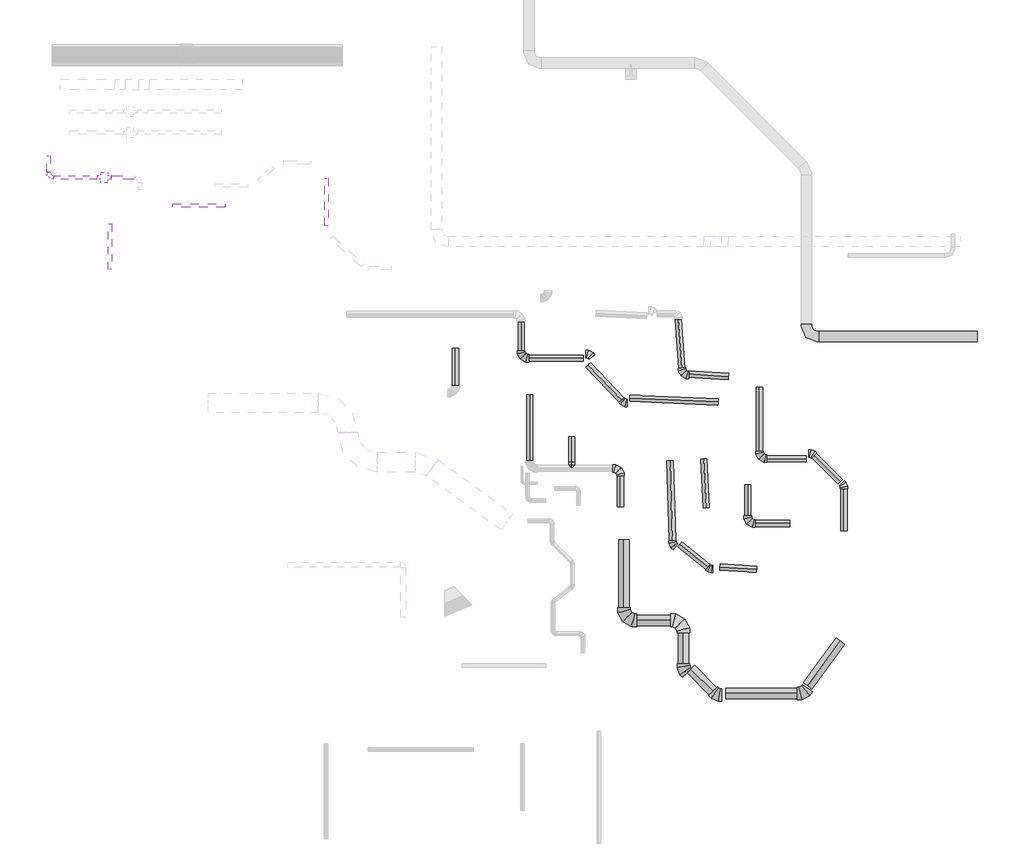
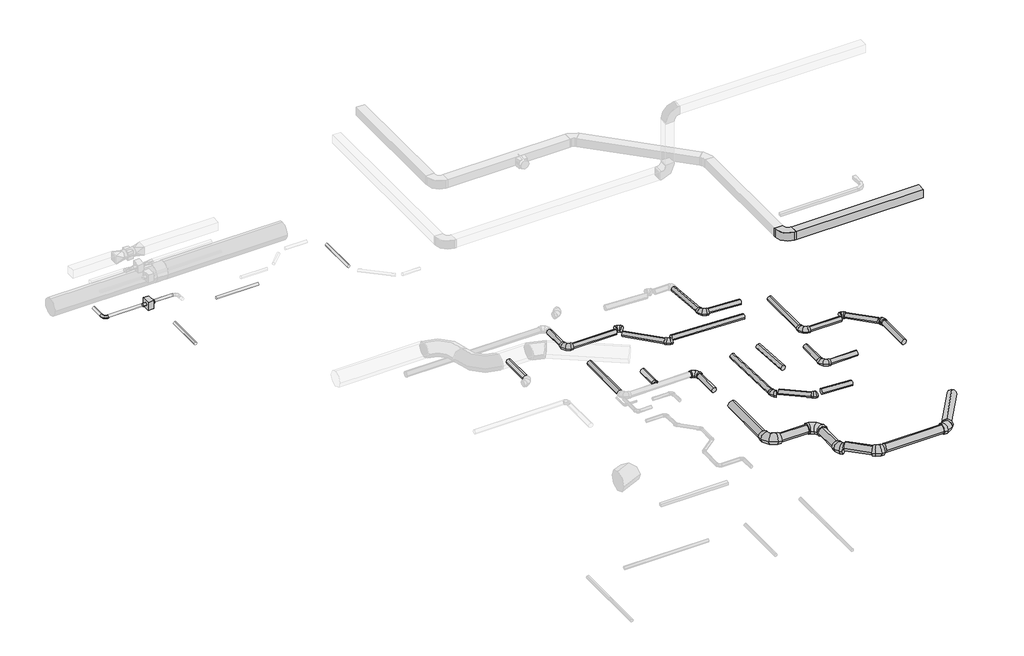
# One storey, part 2 of 3: 33 duct segments, 19 duct fittings, 1 damper.
"""IFC4 building model written with IfcOpenShell, lengths in millimetres."""

from ifc_helpers import new_model, si_unit, point, frame, frame_2d, origin, place, context, project, spatial, polyline, circle_curve, trimmed, segment, composite_curve, outline, extrude, transform, mapped, element, save
from components import damper_48ec160e, duct_fitting_99cd3f61, duct_fitting_6987a024, duct_fitting_42c6a5c8, duct_fitting_3e7b8915, duct_fitting_836300f1, duct_fitting_bc9b2c0d, duct_fitting_0e20c7a0, duct_fitting_1d6929bf, duct_fitting_1a50dd9c, duct_fitting_00318b5b, duct_fitting_fdccc320, duct_fitting_0524fbbe, duct_fitting_1_5_d_8d1b72b4

model = new_model("IFC4")

# Units and contexts
model_context = context("Model", 3, world=origin())
ifc_project = project(units=[si_unit("LENGTHUNIT", "METRE", prefix="MILLI")], contexts=[model_context])

# Site, building, storey
site = spatial("IfcSite", under=ifc_project)
building = spatial("IfcBuilding", under=site)
storey = spatial("IfcBuildingStorey", under=building, Name="Уровень 1", Elevation=0.0)

# Damper
placement = place(None, origin())
damper_shape = damper_48ec160e(model_context)
element("IfcDamper", 1, ObjectType="06_Клапан_Размер соединителя-2 : 02_Клапан_Геометрия", at=placement, inside=storey, context=model_context, shape_type="MappedRepresentation", body=[
    mapped(damper_shape, transform((-14592.4563214, 4293.0138469, 2750.0), x_axis=(1.0, 0.0, 0.0), y_axis=(0.0, 1.0, 0.0), z_axis=(0.0, 0.0, 1.0))),
])

# Duct fittings
duct_fitting_shape = duct_fitting_99cd3f61(model_context)
element("IfcDuctFitting", 2, ObjectType="Отвод прямоугольного сечения : Стандартное", at=placement, inside=storey, context=model_context, shape_type="MappedRepresentation", body=[
    mapped(duct_fitting_shape, transform((5512.1003634, -270.0074084, 1000.0), x_axis=(0.0, -1.0, 0.0), y_axis=(1.0, 0.0, 0.0), z_axis=(0.0, 0.0, 1.0))),
])
duct_fitting_2_shape = duct_fitting_6987a024(model_context)
element("IfcDuctFitting", 3, ObjectType="17_Отвод_Заключение : 10_Отвод_3D объект", at=placement, inside=storey, context=model_context, shape_type="MappedRepresentation", body=[
    mapped(duct_fitting_2_shape, transform((-2651.1464957, -887.0271802, 0.0), x_axis=(0.0, -1.0, 0.0), y_axis=(1.0, 0.0, 0.0), z_axis=(0.0, 0.0, 1.0))),
])
element("IfcDuctFitting", 4, ObjectType="17_Отвод_Заключение : 10_Отвод_3D объект", at=placement, inside=storey, context=model_context, shape_type="MappedRepresentation", body=[
    mapped(duct_fitting_2_shape, transform((190.0160613, -4038.667233, 0.0), x_axis=(0.0, 1.0, 0.0), y_axis=(-1.0, 0.0, 0.0), z_axis=(0.0, 0.0, 1.0))),
])
element("IfcDuctFitting", 5, ObjectType="17_Отвод_Заключение : 10_Отвод_3D объект", at=placement, inside=storey, context=model_context, shape_type="MappedRepresentation", body=[
    mapped(duct_fitting_2_shape, transform((4169.2425379, -3763.5250232, 0.0), x_axis=(0.0, -1.0, 0.0), y_axis=(1.0, 0.0, 0.0), z_axis=(0.0, 0.0, 1.0))),
])
element("IfcDuctFitting", 6, ObjectType="17_Отвод_Заключение : 10_Отвод_3D объект", at=placement, inside=storey, context=model_context, shape_type="MappedRepresentation", body=[
    mapped(duct_fitting_2_shape, transform((3834.6326698, -5615.0022503, 0.0), x_axis=(0.0, -1.0, 0.0), y_axis=(1.0, 0.0, 0.0), z_axis=(0.0, 0.0, 1.0))),
])
duct_fitting_3_shape = duct_fitting_42c6a5c8(model_context)
element("IfcDuctFitting", 7, ObjectType="Врезка круглого сечения : Стандартное", at=placement, inside=storey, context=model_context, shape_type="MappedRepresentation", body=[
    mapped(duct_fitting_3_shape, transform((-1202.5208385, -3948.667233, 0.0), x_axis=(0.0, 1.0, 0.0), y_axis=(1.0, 0.0, 0.0), z_axis=(0.0, 0.0, -1.0))),
])
duct_fitting_4_shape = duct_fitting_3e7b8915(model_context)
element("IfcDuctFitting", 8, ObjectType="17_Отвод_Заключение : 10_Отвод_3D объект", at=placement, inside=storey, context=model_context, shape_type="MappedRepresentation", body=[
    mapped(duct_fitting_4_shape, transform((-697.0877391, -763.1346699, 0.0), x_axis=(-0.5735764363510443, 0.8191520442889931, 0.0), y_axis=(-0.8191520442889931, -0.5735764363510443, 0.0), z_axis=(0.0, 0.0, 1.0))),
])
duct_fitting_5_shape = duct_fitting_836300f1(model_context)
element("IfcDuctFitting", 9, ObjectType="17_Отвод_Заключение : 10_Отвод_3D объект", at=placement, inside=storey, context=model_context, shape_type="MappedRepresentation", body=[
    mapped(duct_fitting_5_shape, transform((285.0795338, -2165.8149029, 0.0), x_axis=(0.6283391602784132, -0.7779395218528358, 0.0), y_axis=(0.7779395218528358, 0.6283391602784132, 0.0), z_axis=(0.0, 0.0, 1.0))),
])
duct_fitting_6_shape = duct_fitting_bc9b2c0d(model_context)
element("IfcDuctFitting", 10, ObjectType="17_Отвод_Заключение : 10_Отвод_3D объект", at=placement, inside=storey, context=model_context, shape_type="MappedRepresentation", body=[
    mapped(duct_fitting_6_shape, transform((1959.492006, -1355.8707242, 0.0), x_axis=(0.07055760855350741, -0.9975077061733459, 0.0), y_axis=(0.9975077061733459, 0.07055760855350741, 0.0), z_axis=(0.0, 0.0, 1.0))),
])
duct_fitting_7_shape = duct_fitting_0e20c7a0(model_context)
element("IfcDuctFitting", 11, ObjectType="17_Отвод_Заключение : 10_Отвод_3D объект", at=placement, inside=storey, context=model_context, shape_type="MappedRepresentation", body=[
    mapped(duct_fitting_7_shape, transform((5669.2425379, -3610.7899584, 0.0), x_axis=(-0.7071067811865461, 0.707106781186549, 0.0), y_axis=(-0.707106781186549, -0.7071067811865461, 0.0), z_axis=(0.0, 0.0, 1.0))),
])
element("IfcDuctFitting", 12, ObjectType="17_Отвод_Заключение : 10_Отвод_3D объект", at=placement, inside=storey, context=model_context, shape_type="MappedRepresentation", body=[
    mapped(duct_fitting_7_shape, transform((6588.4813535, -4530.028774, 0.0), x_axis=(0.0, 1.0, 0.0), y_axis=(-1.0, 0.0, 0.0), z_axis=(0.0, 0.0, 1.0))),
])
duct_fitting_8_shape = duct_fitting_1d6929bf(model_context)
element("IfcDuctFitting", 13, ObjectType="17_Отвод_Заключение : 10_Отвод_3D объект", at=placement, inside=storey, context=model_context, shape_type="MappedRepresentation", body=[
    mapped(duct_fitting_8_shape, transform((1677.4620519, -6216.3976912, 0.0), x_axis=(0.0, -1.0, 0.0), y_axis=(1.0, 0.0, 0.0), z_axis=(0.0, 0.0, 1.0))),
])
duct_fitting_9_shape = duct_fitting_1a50dd9c(model_context)
element("IfcDuctFitting", 14, ObjectType="17_Отвод_Заключение : 10_Отвод_3D объект", at=placement, inside=storey, context=model_context, shape_type="MappedRepresentation", body=[
    mapped(duct_fitting_9_shape, transform((2758.4885044, -6916.8464858, 0.0), x_axis=(0.7771616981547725, -0.6293009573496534, 0.0), y_axis=(0.6293009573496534, 0.7771616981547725, 0.0), z_axis=(0.0, 0.0, 1.0))),
])
duct_fitting_10_shape = duct_fitting_00318b5b(model_context)
element("IfcDuctFitting", 15, ObjectType="17_Отвод_Заключение : 10_Отвод_3D объект", at=placement, inside=storey, context=model_context, shape_type="MappedRepresentation", body=[
    mapped(duct_fitting_10_shape, transform((291.1595452, -8389.3975526, 0.0), x_axis=(0.0, -1.0, 0.0), y_axis=(1.0, 0.0, 0.0), z_axis=(0.0, 0.0, 1.0))),
])
element("IfcDuctFitting", 16, ObjectType="17_Отвод_Заключение : 10_Отвод_3D объект", at=placement, inside=storey, context=model_context, shape_type="MappedRepresentation", body=[
    mapped(duct_fitting_10_shape, transform((1991.1595452, -8389.3975526, 0.0), x_axis=(0.0, 1.0, 0.0), y_axis=(-1.0, 0.0, 0.0), z_axis=(0.0, 0.0, 1.0))),
])
duct_fitting_11_shape = duct_fitting_fdccc320(model_context)
element("IfcDuctFitting", 17, ObjectType="17_Отвод_Заключение : 10_Отвод_3D объект", at=placement, inside=storey, context=model_context, shape_type="MappedRepresentation", body=[
    mapped(duct_fitting_11_shape, transform((1991.1595452, -9789.3975526, 0.0), x_axis=(0.0, -1.0, 0.0), y_axis=(1.0, 0.0, 0.0), z_axis=(0.0, 0.0, 1.0))),
])
element("IfcDuctFitting", 18, ObjectType="17_Отвод_Заключение : 10_Отвод_3D объект", at=placement, inside=storey, context=model_context, shape_type="MappedRepresentation", body=[
    mapped(duct_fitting_11_shape, transform((2947.6876826, -10529.92569, 0.0), x_axis=(0.7071067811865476, -0.7071067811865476, 0.0), y_axis=(0.7071067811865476, 0.7071067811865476, 0.0), z_axis=(0.0, 0.0, 1.0))),
])
duct_fitting_12_shape = duct_fitting_0524fbbe(model_context)
element("IfcDuctFitting", 19, ObjectType="17_Отвод_Заключение : 10_Отвод_3D объект", at=placement, inside=storey, context=model_context, shape_type="MappedRepresentation", body=[
    mapped(duct_fitting_12_shape, transform((5439.6876826, -10485.1906253, 0.0), x_axis=(1.0, 0.0, 0.0), y_axis=(0.0, 1.0, 0.0), z_axis=(0.0, 0.0, 1.0))),
])
duct_fitting_1_5_d_shape = duct_fitting_1_5_d_8d1b72b4(model_context)
element("IfcDuctFitting", 20, ObjectType="M_Отвод круглого сечения : 1.5 D", at=placement, inside=storey, context=model_context, shape_type="MappedRepresentation", body=[
    mapped(duct_fitting_1_5_d_shape, transform((-16192.4563214, 4293.0138469, 2750.0), x_axis=(0.0, -1.0, 0.0), y_axis=(1.0, 0.0, 0.0), z_axis=(0.0, 0.0, 1.0))),
])

# Duct segments
element("IfcDuctSegment", 21, ObjectType="Закругленные отводы / тройники", at=placement, inside=storey, context=model_context, shape_type="SweptSolid", body=[
    extrude(outline(polyline([(5862.1003634, -420.0074084), (5862.1003634, -120.0074084), (10412.1003634, -120.0074084), (10412.1003634, -420.0074084), (5862.1003634, -420.0074084)])), frame((0.0, 0.0, 850.0), z_axis=(0.0, 0.0, 1.0), x_axis=(1.0, 0.0, 0.0)), (0.0, 0.0, 1.0), 300.0),
])
element("IfcDuctSegment", 22, ObjectType="Врезки", at=placement, inside=storey, context=model_context, shape_type="SweptSolid", body=[
    extrude(outline(composite_curve([segment(trimmed(circle_curve(frame_2d((4293.0138469, 2750.0)), 50.0), [point((4343.0138469, 2750.0))], [point((4293.0138469, 2700.0))], False, "CARTESIAN"), True, "CONTINUOUS"), segment(trimmed(circle_curve(frame_2d((4293.0138469, 2750.0)), 50.0), [point((4293.0138469, 2700.0))], [point((4243.0138469, 2750.0))], False, "CARTESIAN"), True, "CONTINUOUS"), segment(trimmed(circle_curve(frame_2d((4293.0138469, 2750.0)), 50.0), [point((4243.0138469, 2750.0))], [point((4293.0138469, 2800.0))], False, "CARTESIAN"), True, "CONTINUOUS"), segment(trimmed(circle_curve(frame_2d((4293.0138469, 2750.0)), 50.0), [point((4293.0138469, 2800.0))], [point((4343.0138469, 2750.0))], False, "CARTESIAN"), True, "CONTINUOUS")], self_intersect=False)), frame((-16042.4563214, 0.0, 0.0), z_axis=(1.0, 0.0, 0.0), x_axis=(0.0, 1.0, 0.0)), (0.0, 0.0, 1.0), 1250.0),
])
element("IfcDuctSegment", 23, ObjectType="Врезки", at=placement, inside=storey, context=model_context, shape_type="SweptSolid", body=[
    extrude(outline(composite_curve([segment(trimmed(circle_curve(frame_2d((2750.0, -16192.4563214)), 50.0), [point((2750.0, -16142.4563214))], [point((2800.0, -16192.4563214))], False, "CARTESIAN"), True, "CONTINUOUS"), segment(trimmed(circle_curve(frame_2d((2750.0, -16192.4563214)), 50.0), [point((2800.0, -16192.4563214))], [point((2750.0, -16242.4563214))], False, "CARTESIAN"), True, "CONTINUOUS"), segment(trimmed(circle_curve(frame_2d((2750.0, -16192.4563214)), 50.0), [point((2750.0, -16242.4563214))], [point((2700.0, -16192.4563214))], False, "CARTESIAN"), True, "CONTINUOUS"), segment(trimmed(circle_curve(frame_2d((2750.0, -16192.4563214)), 50.0), [point((2700.0, -16192.4563214))], [point((2750.0, -16142.4563214))], False, "CARTESIAN"), True, "CONTINUOUS")], self_intersect=False)), frame((0.0, 4443.0138469, 0.0), z_axis=(0.0, 1.0, 0.0), x_axis=(0.0, 0.0, 1.0)), (0.0, 0.0, 1.0), 470.0),
])
element("IfcDuctSegment", 24, ObjectType="Врезки", at=placement, inside=storey, context=model_context, shape_type="SweptSolid", body=[
    extrude(outline(composite_curve([segment(trimmed(circle_curve(frame_2d((4293.0138469, 2750.0)), 50.0), [point((4243.0138469, 2750.0))], [point((4293.0138469, 2800.0))], False, "CARTESIAN"), True, "CONTINUOUS"), segment(trimmed(circle_curve(frame_2d((4293.0138469, 2750.0)), 50.0), [point((4293.0138469, 2800.0))], [point((4343.0138469, 2750.0))], False, "CARTESIAN"), True, "CONTINUOUS"), segment(trimmed(circle_curve(frame_2d((4293.0138469, 2750.0)), 50.0), [point((4343.0138469, 2750.0))], [point((4293.0138469, 2700.0))], False, "CARTESIAN"), True, "CONTINUOUS"), segment(trimmed(circle_curve(frame_2d((4293.0138469, 2750.0)), 50.0), [point((4293.0138469, 2700.0))], [point((4243.0138469, 2750.0))], False, "CARTESIAN"), True, "CONTINUOUS")], self_intersect=False)), frame((-14392.4563214, 0.0, 0.0), z_axis=(1.0, 0.0, 0.0), x_axis=(0.0, 1.0, 0.0)), (0.0, 0.0, 1.0), 670.0),
])
element("IfcDuctSegment", 25, ObjectType="Врезки", at=placement, inside=storey, context=model_context, shape_type="SweptSolid", body=[
    extrude(outline(composite_curve([segment(trimmed(circle_curve(frame_2d((3482.6867258, 2750.0)), 50.0), [point((3432.6867258, 2750.0))], [point((3482.6867258, 2800.0))], False, "CARTESIAN"), True, "CONTINUOUS"), segment(trimmed(circle_curve(frame_2d((3482.6867258, 2750.0)), 50.0), [point((3482.6867258, 2800.0))], [point((3532.6867258, 2750.0))], False, "CARTESIAN"), True, "CONTINUOUS"), segment(trimmed(circle_curve(frame_2d((3482.6867258, 2750.0)), 50.0), [point((3532.6867258, 2750.0))], [point((3482.6867258, 2700.0))], False, "CARTESIAN"), True, "CONTINUOUS"), segment(trimmed(circle_curve(frame_2d((3482.6867258, 2750.0)), 50.0), [point((3482.6867258, 2700.0))], [point((3432.6867258, 2750.0))], False, "CARTESIAN"), True, "CONTINUOUS")], self_intersect=False)), frame((-12630.7811556, 0.0, 0.0), z_axis=(1.0, 0.0, 0.0), x_axis=(0.0, 1.0, 0.0)), (0.0, 0.0, 1.0), 1500.0),
])
element("IfcDuctSegment", 26, ObjectType="Врезки", at=placement, inside=storey, context=model_context, shape_type="SweptSolid", body=[
    extrude(outline(composite_curve([segment(trimmed(circle_curve(frame_2d((2750.0, -8231.9089378)), 50.0), [point((2750.0, -8281.9089378))], [point((2700.0, -8231.9089378))], False, "CARTESIAN"), True, "CONTINUOUS"), segment(trimmed(circle_curve(frame_2d((2750.0, -8231.9089378)), 50.0), [point((2700.0, -8231.9089378))], [point((2750.0, -8181.9089378))], False, "CARTESIAN"), True, "CONTINUOUS"), segment(trimmed(circle_curve(frame_2d((2750.0, -8231.9089378)), 50.0), [point((2750.0, -8181.9089378))], [point((2800.0, -8231.9089378))], False, "CARTESIAN"), True, "CONTINUOUS"), segment(trimmed(circle_curve(frame_2d((2750.0, -8231.9089378)), 50.0), [point((2800.0, -8231.9089378))], [point((2750.0, -8281.9089378))], False, "CARTESIAN"), True, "CONTINUOUS")], self_intersect=False)), frame((0.0, 2902.2929344, 0.0), z_axis=(0.0, 1.0, 0.0), x_axis=(0.0, 0.0, 1.0)), (0.0, 0.0, 1.0), 1369.6470916),
])
element("IfcDuctSegment", 27, ObjectType="Врезки", at=placement, inside=storey, context=model_context, shape_type="SweptSolid", body=[
    extrude(outline(composite_curve([segment(trimmed(circle_curve(frame_2d((2750.0, -14419.7923329)), 50.0), [point((2750.0, -14469.7923329))], [point((2700.0, -14419.7923329))], False, "CARTESIAN"), True, "CONTINUOUS"), segment(trimmed(circle_curve(frame_2d((2750.0, -14419.7923329)), 50.0), [point((2700.0, -14419.7923329))], [point((2750.0, -14369.7923329))], False, "CARTESIAN"), True, "CONTINUOUS"), segment(trimmed(circle_curve(frame_2d((2750.0, -14419.7923329)), 50.0), [point((2750.0, -14369.7923329))], [point((2800.0, -14419.7923329))], False, "CARTESIAN"), True, "CONTINUOUS"), segment(trimmed(circle_curve(frame_2d((2750.0, -14419.7923329)), 50.0), [point((2800.0, -14419.7923329))], [point((2750.0, -14469.7923329))], False, "CARTESIAN"), True, "CONTINUOUS")], self_intersect=False)), frame((0.0, 1658.1028546, 0.0), z_axis=(0.0, 1.0, 0.0), x_axis=(0.0, 0.0, 1.0)), (0.0, 0.0, 1.0), 1300.0),
])
element("IfcDuctSegment", 28, ObjectType="Врезки", at=placement, inside=storey, context=model_context, shape_type="SweptSolid", body=[
    extrude(outline(composite_curve([segment(trimmed(circle_curve(frame_2d((0.0, -4537.0211343)), 90.0), [point((0.0, -4447.0211343))], [point((90.0, -4537.0211343))], False, "CARTESIAN"), True, "CONTINUOUS"), segment(trimmed(circle_curve(frame_2d((0.0, -4537.0211343)), 90.0), [point((90.0, -4537.0211343))], [point((0.0, -4627.0211343))], False, "CARTESIAN"), True, "CONTINUOUS"), segment(trimmed(circle_curve(frame_2d((0.0, -4537.0211343)), 90.0), [point((0.0, -4627.0211343))], [point((-90.0, -4537.0211343))], False, "CARTESIAN"), True, "CONTINUOUS"), segment(trimmed(circle_curve(frame_2d((0.0, -4537.0211343)), 90.0), [point((-90.0, -4537.0211343))], [point((0.0, -4447.0211343))], False, "CARTESIAN"), True, "CONTINUOUS")], self_intersect=False)), frame((0.0, -1669.8149029, 0.0), z_axis=(0.0, 1.0, 0.0), x_axis=(0.0, 0.0, 1.0)), (0.0, 0.0, 1.0), 1064.0),
])
element("IfcDuctSegment", 29, ObjectType="Врезки 2", at=placement, inside=storey, context=model_context, shape_type="SweptSolid", body=[
    extrude(outline(composite_curve([segment(trimmed(circle_curve(frame_2d((0.0, -2651.1464957)), 90.0), [point((0.0, -2741.1464957))], [point((-90.0, -2651.1464957))], False, "CARTESIAN"), True, "CONTINUOUS"), segment(trimmed(circle_curve(frame_2d((0.0, -2651.1464957)), 90.0), [point((-90.0, -2651.1464957))], [point((0.0, -2561.1464957))], False, "CARTESIAN"), True, "CONTINUOUS"), segment(trimmed(circle_curve(frame_2d((0.0, -2651.1464957)), 90.0), [point((0.0, -2561.1464957))], [point((90.0, -2651.1464957))], False, "CARTESIAN"), True, "CONTINUOUS"), segment(trimmed(circle_curve(frame_2d((0.0, -2651.1464957)), 90.0), [point((90.0, -2651.1464957))], [point((0.0, -2741.1464957))], False, "CARTESIAN"), True, "CONTINUOUS")], self_intersect=False)), frame((0.0, -671.0271802, 0.0), z_axis=(0.0, 1.0, 0.0), x_axis=(0.0, 0.0, 1.0)), (0.0, 0.0, 1.0), 826.2816151),
])
element("IfcDuctSegment", 30, ObjectType="Врезки 2", at=placement, inside=storey, context=model_context, shape_type="SweptSolid", body=[
    extrude(outline(composite_curve([segment(trimmed(circle_curve(frame_2d((-887.0271802, 0.0)), 90.0), [point((-977.0271802, 0.0))], [point((-887.0271802, 90.0))], False, "CARTESIAN"), True, "CONTINUOUS"), segment(trimmed(circle_curve(frame_2d((-887.0271802, 0.0)), 90.0), [point((-887.0271802, 90.0))], [point((-797.0271802, 0.0))], False, "CARTESIAN"), True, "CONTINUOUS"), segment(trimmed(circle_curve(frame_2d((-887.0271802, 0.0)), 90.0), [point((-797.0271802, 0.0))], [point((-887.0271802, -90.0))], False, "CARTESIAN"), True, "CONTINUOUS"), segment(trimmed(circle_curve(frame_2d((-887.0271802, 0.0)), 90.0), [point((-887.0271802, -90.0))], [point((-977.0271802, 0.0))], False, "CARTESIAN"), True, "CONTINUOUS")], self_intersect=False)), frame((-2435.1464957, 0.0, 0.0), z_axis=(1.0, 0.0, 0.0), x_axis=(0.0, 1.0, 0.0)), (0.0, 0.0, 1.0), 1561.1219151),
])
element("IfcDuctSegment", 31, ObjectType="Врезки 2", at=placement, inside=storey, context=model_context, shape_type="SweptSolid", body=[
    extrude(outline(composite_curve([segment(trimmed(circle_curve(frame_2d((0.0, -90.0)), 90.0), [point((-90.0000001, -90.0))], [point((0.0, 0.0))], False, "CARTESIAN"), True, "CONTINUOUS"), segment(trimmed(circle_curve(frame_2d((0.0, -90.0)), 90.0), [point((0.0, 0.0))], [point((90.0, -90.0))], False, "CARTESIAN"), True, "CONTINUOUS"), segment(trimmed(circle_curve(frame_2d((0.0, -90.0)), 90.0), [point((90.0, -90.0))], [point((0.0, -180.0))], False, "CARTESIAN"), True, "CONTINUOUS"), segment(trimmed(circle_curve(frame_2d((0.0, -90.0)), 90.0), [point((0.0, -180.0))], [point((-90.0000001, -90.0))], False, "CARTESIAN"), True, "CONTINUOUS")], self_intersect=False)), frame((220.2386618, -2085.5361615, -90.0), z_axis=(-0.6881343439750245, 0.7255832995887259, 0.0), x_axis=(0.7255832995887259, 0.6881343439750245, 0.0)), (0.0, 0.0, 1.0), 1382.4270396),
])
element("IfcDuctSegment", 32, ObjectType="Врезки 2", at=placement, inside=storey, context=model_context, shape_type="SweptSolid", body=[
    extrude(outline(composite_curve([segment(trimmed(circle_curve(frame_2d((0.0, -90.0)), 90.0), [point((-90.0, -90.0))], [point((0.0, 0.0))], False, "CARTESIAN"), True, "CONTINUOUS"), segment(trimmed(circle_curve(frame_2d((0.0, -90.0)), 90.0), [point((0.0, 0.0))], [point((90.0, -90.0))], False, "CARTESIAN"), True, "CONTINUOUS"), segment(trimmed(circle_curve(frame_2d((0.0, -90.0)), 90.0), [point((90.0, -90.0))], [point((0.0, -180.0))], False, "CARTESIAN"), True, "CONTINUOUS"), segment(trimmed(circle_curve(frame_2d((0.0, -90.0)), 90.0), [point((0.0, -180.0))], [point((-90.0, -90.0))], False, "CARTESIAN"), True, "CONTINUOUS")], self_intersect=False)), frame((2986.3033266, -2136.7481719, -90.0), z_axis=(-0.9991148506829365, 0.04206560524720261, 0.0), x_axis=(0.04206560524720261, 0.9991148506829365, 0.0)), (0.0, 0.0, 1.0), 2535.433093),
])
element("IfcDuctSegment", 33, ObjectType="Врезки 2", at=placement, inside=storey, context=model_context, shape_type="SweptSolid", body=[
    extrude(outline(composite_curve([segment(trimmed(circle_curve(frame_2d((0.0, -2409.9839387)), 90.0), [point((0.0, -2499.9839387))], [point((-90.0, -2409.9839387))], False, "CARTESIAN"), True, "CONTINUOUS"), segment(trimmed(circle_curve(frame_2d((0.0, -2409.9839387)), 90.0), [point((-90.0, -2409.9839387))], [point((0.0, -2319.9839387))], False, "CARTESIAN"), True, "CONTINUOUS"), segment(trimmed(circle_curve(frame_2d((0.0, -2409.9839387)), 90.0), [point((0.0, -2319.9839387))], [point((90.0, -2409.9839387))], False, "CARTESIAN"), True, "CONTINUOUS"), segment(trimmed(circle_curve(frame_2d((0.0, -2409.9839387)), 90.0), [point((90.0, -2409.9839387))], [point((0.0, -2499.9839387))], False, "CARTESIAN"), True, "CONTINUOUS")], self_intersect=False)), frame((0.0, -3822.667233, 0.0), z_axis=(0.0, 1.0, 0.0), x_axis=(0.0, 0.0, 1.0)), (0.0, 0.0, 1.0), 1884.0),
])
element("IfcDuctSegment", 34, ObjectType="Врезки 2", at=placement, inside=storey, context=model_context, shape_type="SweptSolid", body=[
    extrude(outline(composite_curve([segment(trimmed(circle_curve(frame_2d((0.0, 190.0160613)), 90.0), [point((0.0, 100.0160613))], [point((-90.0, 190.0160613))], False, "CARTESIAN"), True, "CONTINUOUS"), segment(trimmed(circle_curve(frame_2d((0.0, 190.0160613)), 90.0), [point((-90.0, 190.0160613))], [point((0.0, 280.0160613))], False, "CARTESIAN"), True, "CONTINUOUS"), segment(trimmed(circle_curve(frame_2d((0.0, 190.0160613)), 90.0), [point((0.0, 280.0160613))], [point((90.0, 190.0160613))], False, "CARTESIAN"), True, "CONTINUOUS"), segment(trimmed(circle_curve(frame_2d((0.0, 190.0160613)), 90.0), [point((90.0, 190.0160613))], [point((0.0, 100.0160613))], False, "CARTESIAN"), True, "CONTINUOUS")], self_intersect=False)), frame((0.0, -5138.667233, 0.0), z_axis=(0.0, 1.0, 0.0), x_axis=(0.0, 0.0, 1.0)), (0.0, 0.0, 1.0), 884.0),
])
element("IfcDuctSegment", 35, ObjectType="Врезки 2", at=placement, inside=storey, context=model_context, shape_type="SweptSolid", body=[
    extrude(outline(composite_curve([segment(trimmed(circle_curve(frame_2d((0.0, -90.0)), 90.0), [point((-89.9999999, -90.0))], [point((0.0, 0.0))], False, "CARTESIAN"), True, "CONTINUOUS"), segment(trimmed(circle_curve(frame_2d((0.0, -90.0)), 90.0), [point((0.0, 0.0))], [point((90.0, -90.0))], False, "CARTESIAN"), True, "CONTINUOUS"), segment(trimmed(circle_curve(frame_2d((0.0, -90.0)), 90.0), [point((90.0, -90.0))], [point((0.0, -180.0))], False, "CARTESIAN"), True, "CONTINUOUS"), segment(trimmed(circle_curve(frame_2d((0.0, -90.0)), 90.0), [point((0.0, -180.0))], [point((-89.9999999, -90.0))], False, "CARTESIAN"), True, "CONTINUOUS")], self_intersect=False)), frame((1945.9620672, -1164.5913085, -90.0), z_axis=(-0.07055760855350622, 0.9975077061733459, 0.0), x_axis=(0.9975077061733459, 0.07055760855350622, 0.0)), (0.0, 0.0, 1.0), 1393.3212675),
])
element("IfcDuctSegment", 36, ObjectType="Врезки 2", at=placement, inside=storey, context=model_context, shape_type="SweptSolid", body=[
    extrude(outline(composite_curve([segment(trimmed(circle_curve(frame_2d((0.0, -90.0)), 90.0), [point((-90.0, -90.0))], [point((0.0, 0.0))], False, "CARTESIAN"), True, "CONTINUOUS"), segment(trimmed(circle_curve(frame_2d((0.0, -90.0)), 90.0), [point((0.0, 0.0))], [point((90.0000001, -90.0))], False, "CARTESIAN"), True, "CONTINUOUS"), segment(trimmed(circle_curve(frame_2d((0.0, -90.0)), 90.0), [point((90.0000001, -90.0))], [point((0.0, -180.0))], False, "CARTESIAN"), True, "CONTINUOUS"), segment(trimmed(circle_curve(frame_2d((0.0, -90.0)), 90.0), [point((0.0, -180.0))], [point((-90.0, -90.0))], False, "CARTESIAN"), True, "CONTINUOUS")], self_intersect=False)), frame((3281.743307, -1411.1626812, -90.0), z_axis=(-0.9980550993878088, 0.06233793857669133, 0.0), x_axis=(0.06233793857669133, 0.9980550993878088, 0.0)), (0.0, 0.0, 1.0), 1207.4474184),
])
element("IfcDuctSegment", 37, ObjectType="Врезки 2", at=placement, inside=storey, context=model_context, shape_type="SweptSolid", body=[
    extrude(outline(composite_curve([segment(trimmed(circle_curve(frame_2d((0.0, 4169.2425379)), 90.0), [point((0.0, 4079.2425379))], [point((-90.0, 4169.2425379))], False, "CARTESIAN"), True, "CONTINUOUS"), segment(trimmed(circle_curve(frame_2d((0.0, 4169.2425379)), 90.0), [point((-90.0, 4169.2425379))], [point((0.0, 4259.2425379))], False, "CARTESIAN"), True, "CONTINUOUS"), segment(trimmed(circle_curve(frame_2d((0.0, 4169.2425379)), 90.0), [point((0.0, 4259.2425379))], [point((90.0, 4169.2425379))], False, "CARTESIAN"), True, "CONTINUOUS"), segment(trimmed(circle_curve(frame_2d((0.0, 4169.2425379)), 90.0), [point((90.0, 4169.2425379))], [point((0.0, 4079.2425379))], False, "CARTESIAN"), True, "CONTINUOUS")], self_intersect=False)), frame((0.0, -3547.5250232, 0.0), z_axis=(0.0, 1.0, 0.0), x_axis=(0.0, 0.0, 1.0)), (0.0, 0.0, 1.0), 1836.7350647),
])
element("IfcDuctSegment", 38, ObjectType="Врезки 2", at=placement, inside=storey, context=model_context, shape_type="SweptSolid", body=[
    extrude(outline(composite_curve([segment(trimmed(circle_curve(frame_2d((-3763.5250232, 0.0)), 90.0), [point((-3853.5250232, 0.0))], [point((-3763.5250232, 90.0))], False, "CARTESIAN"), True, "CONTINUOUS"), segment(trimmed(circle_curve(frame_2d((-3763.5250232, 0.0)), 90.0), [point((-3763.5250232, 90.0))], [point((-3673.5250232, 0.0))], False, "CARTESIAN"), True, "CONTINUOUS"), segment(trimmed(circle_curve(frame_2d((-3763.5250232, 0.0)), 90.0), [point((-3673.5250232, 0.0))], [point((-3763.5250232, -90.0))], False, "CARTESIAN"), True, "CONTINUOUS"), segment(trimmed(circle_curve(frame_2d((-3763.5250232, 0.0)), 90.0), [point((-3763.5250232, -90.0))], [point((-3853.5250232, 0.0))], False, "CARTESIAN"), True, "CONTINUOUS")], self_intersect=False)), frame((4385.2425379, 0.0, 0.0), z_axis=(1.0, 0.0, 0.0), x_axis=(0.0, 1.0, 0.0)), (0.0, 0.0, 1.0), 1131.2649353),
])
element("IfcDuctSegment", 39, ObjectType="Врезки 2", at=placement, inside=storey, context=model_context, shape_type="SweptSolid", body=[
    extrude(outline(composite_curve([segment(trimmed(circle_curve(frame_2d((0.0, -90.0)), 90.0), [point((-90.0, -90.0))], [point((0.0, 0.0))], False, "CARTESIAN"), True, "CONTINUOUS"), segment(trimmed(circle_curve(frame_2d((0.0, -90.0)), 90.0), [point((0.0, 0.0))], [point((90.0, -90.0))], False, "CARTESIAN"), True, "CONTINUOUS"), segment(trimmed(circle_curve(frame_2d((0.0, -90.0)), 90.0), [point((90.0, -90.0))], [point((0.0, -180.0))], False, "CARTESIAN"), True, "CONTINUOUS"), segment(trimmed(circle_curve(frame_2d((0.0, -90.0)), 90.0), [point((0.0, -180.0))], [point((-90.0, -90.0))], False, "CARTESIAN"), True, "CONTINUOUS")], self_intersect=False)), frame((6480.4813535, -4422.028774, -90.0), z_axis=(-0.7071067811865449, 0.7071067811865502, 0.0), x_axis=(0.7071067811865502, 0.7071067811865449, 0.0)), (0.0, 0.0, 1.0), 1057.7948058),
])
element("IfcDuctSegment", 40, ObjectType="Врезки 2", at=placement, inside=storey, context=model_context, shape_type="SweptSolid", body=[
    extrude(outline(composite_curve([segment(trimmed(circle_curve(frame_2d((0.0, 6588.4813535)), 90.0), [point((0.0, 6498.4813535))], [point((-90.0, 6588.4813535))], False, "CARTESIAN"), True, "CONTINUOUS"), segment(trimmed(circle_curve(frame_2d((0.0, 6588.4813535)), 90.0), [point((-90.0, 6588.4813535))], [point((0.0, 6678.4813535))], False, "CARTESIAN"), True, "CONTINUOUS"), segment(trimmed(circle_curve(frame_2d((0.0, 6588.4813535)), 90.0), [point((0.0, 6678.4813535))], [point((90.0, 6588.4813535))], False, "CARTESIAN"), True, "CONTINUOUS"), segment(trimmed(circle_curve(frame_2d((0.0, 6588.4813535)), 90.0), [point((90.0, 6588.4813535))], [point((0.0, 6498.4813535))], False, "CARTESIAN"), True, "CONTINUOUS")], self_intersect=False)), frame((0.0, -5830.028774, 0.0), z_axis=(0.0, 1.0, 0.0), x_axis=(0.0, 0.0, 1.0)), (0.0, 0.0, 1.0), 1210.5298705),
])
element("IfcDuctSegment", 41, ObjectType="Врезки 2", at=placement, inside=storey, context=model_context, shape_type="SweptSolid", body=[
    extrude(outline(composite_curve([segment(trimmed(circle_curve(frame_2d((0.0, -90.0)), 90.0), [point((-90.0, -90.0))], [point((0.0, 0.0))], False, "CARTESIAN"), True, "CONTINUOUS"), segment(trimmed(circle_curve(frame_2d((0.0, -90.0)), 90.0), [point((0.0, 0.0))], [point((90.0000001, -90.0))], False, "CARTESIAN"), True, "CONTINUOUS"), segment(trimmed(circle_curve(frame_2d((0.0, -90.0)), 90.0), [point((90.0000001, -90.0))], [point((0.0, -180.0))], False, "CARTESIAN"), True, "CONTINUOUS"), segment(trimmed(circle_curve(frame_2d((0.0, -90.0)), 90.0), [point((0.0, -180.0))], [point((-90.0, -90.0))], False, "CARTESIAN"), True, "CONTINUOUS")], self_intersect=False)), frame((2646.2275911, -5167.5481251, -90.0), z_axis=(-0.052335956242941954, 0.998629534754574, 0.0), x_axis=(0.998629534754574, 0.052335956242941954, 0.0)), (0.0, 0.0, 1.0), 1400.0),
])
element("IfcDuctSegment", 42, ObjectType="Врезки 2", at=placement, inside=storey, context=model_context, shape_type="SweptSolid", body=[
    extrude(outline(composite_curve([segment(trimmed(circle_curve(frame_2d((0.0, 3834.6326698)), 90.0), [point((0.0, 3744.6326698))], [point((-90.0, 3834.6326698))], False, "CARTESIAN"), True, "CONTINUOUS"), segment(trimmed(circle_curve(frame_2d((0.0, 3834.6326698)), 90.0), [point((-90.0, 3834.6326698))], [point((0.0, 3924.6326698))], False, "CARTESIAN"), True, "CONTINUOUS"), segment(trimmed(circle_curve(frame_2d((0.0, 3834.6326698)), 90.0), [point((0.0, 3924.6326698))], [point((90.0, 3834.6326698))], False, "CARTESIAN"), True, "CONTINUOUS"), segment(trimmed(circle_curve(frame_2d((0.0, 3834.6326698)), 90.0), [point((90.0, 3834.6326698))], [point((0.0, 3744.6326698))], False, "CARTESIAN"), True, "CONTINUOUS")], self_intersect=False)), frame((0.0, -5399.0022503, 0.0), z_axis=(0.0, 1.0, 0.0), x_axis=(0.0, 0.0, 1.0)), (0.0, 0.0, 1.0), 884.0),
])
element("IfcDuctSegment", 43, ObjectType="Врезки 2", at=placement, inside=storey, context=model_context, shape_type="SweptSolid", body=[
    extrude(outline(composite_curve([segment(trimmed(circle_curve(frame_2d((-5615.0022503, 0.0)), 90.0), [point((-5705.0022503, 0.0))], [point((-5615.0022503, 90.0))], False, "CARTESIAN"), True, "CONTINUOUS"), segment(trimmed(circle_curve(frame_2d((-5615.0022503, 0.0)), 90.0), [point((-5615.0022503, 90.0))], [point((-5525.0022503, 0.0))], False, "CARTESIAN"), True, "CONTINUOUS"), segment(trimmed(circle_curve(frame_2d((-5615.0022503, 0.0)), 90.0), [point((-5525.0022503, 0.0))], [point((-5615.0022503, -90.0))], False, "CARTESIAN"), True, "CONTINUOUS"), segment(trimmed(circle_curve(frame_2d((-5615.0022503, 0.0)), 90.0), [point((-5615.0022503, -90.0))], [point((-5705.0022503, 0.0))], False, "CARTESIAN"), True, "CONTINUOUS")], self_intersect=False)), frame((4050.6326698, 0.0, 0.0), z_axis=(1.0, 0.0, 0.0), x_axis=(0.0, 1.0, 0.0)), (0.0, 0.0, 1.0), 984.0),
])
element("IfcDuctSegment", 44, ObjectType="Врезки 2", at=placement, inside=storey, context=model_context, shape_type="SweptSolid", body=[
    extrude(outline(composite_curve([segment(trimmed(circle_curve(frame_2d((0.0, -90.0)), 90.0), [point((-90.0, -90.0))], [point((0.0, 0.0))], False, "CARTESIAN"), True, "CONTINUOUS"), segment(trimmed(circle_curve(frame_2d((0.0, -90.0)), 90.0), [point((0.0, 0.0))], [point((90.0000001, -90.0))], False, "CARTESIAN"), True, "CONTINUOUS"), segment(trimmed(circle_curve(frame_2d((0.0, -90.0)), 90.0), [point((90.0000001, -90.0))], [point((0.0, -180.0))], False, "CARTESIAN"), True, "CONTINUOUS"), segment(trimmed(circle_curve(frame_2d((0.0, -90.0)), 90.0), [point((0.0, -180.0))], [point((-90.0, -90.0))], False, "CARTESIAN"), True, "CONTINUOUS")], self_intersect=False)), frame((1677.4620519, -6106.3401941, -90.0), z_axis=(-0.0288555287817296, 0.9995835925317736, 0.0), x_axis=(0.9995835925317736, 0.0288555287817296, 0.0)), (0.0, 0.0, 1.0), 2288.9889537),
])
element("IfcDuctSegment", 45, ObjectType="Врезки 2", at=placement, inside=storey, context=model_context, shape_type="SweptSolid", body=[
    extrude(outline(composite_curve([segment(trimmed(circle_curve(frame_2d((0.0, -90.0)), 90.0), [point((-90.0000001, -90.0))], [point((0.0, 0.0))], False, "CARTESIAN"), True, "CONTINUOUS"), segment(trimmed(circle_curve(frame_2d((0.0, -90.0)), 90.0), [point((0.0, 0.0))], [point((90.0, -90.0))], False, "CARTESIAN"), True, "CONTINUOUS"), segment(trimmed(circle_curve(frame_2d((0.0, -90.0)), 90.0), [point((90.0, -90.0))], [point((0.0, -180.0))], False, "CARTESIAN"), True, "CONTINUOUS"), segment(trimmed(circle_curve(frame_2d((0.0, -90.0)), 90.0), [point((0.0, -180.0))], [point((-90.0000001, -90.0))], False, "CARTESIAN"), True, "CONTINUOUS")], self_intersect=False)), frame((2699.04607, -6868.7134126, -90.0), z_axis=(-0.7771616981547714, 0.6293009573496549, 0.0), x_axis=(0.6293009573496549, 0.7771616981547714, 0.0)), (0.0, 0.0, 1.0), 1036.5719514),
])
element("IfcDuctSegment", 46, ObjectType="Врезки 2", at=placement, inside=storey, context=model_context, shape_type="SweptSolid", body=[
    extrude(outline(composite_curve([segment(trimmed(circle_curve(frame_2d((0.0, -90.0)), 90.0), [point((-90.0, -90.0))], [point((0.0, 0.0))], False, "CARTESIAN"), True, "CONTINUOUS"), segment(trimmed(circle_curve(frame_2d((0.0, -90.0)), 90.0), [point((0.0, 0.0))], [point((89.9999999, -90.0))], False, "CARTESIAN"), True, "CONTINUOUS"), segment(trimmed(circle_curve(frame_2d((0.0, -90.0)), 90.0), [point((89.9999999, -90.0))], [point((0.0, -180.0))], False, "CARTESIAN"), True, "CONTINUOUS"), segment(trimmed(circle_curve(frame_2d((0.0, -90.0)), 90.0), [point((0.0, -180.0))], [point((-90.0, -90.0))], False, "CARTESIAN"), True, "CONTINUOUS")], self_intersect=False)), frame((4086.312369, -6931.2499203, -90.0), z_axis=(-0.9979790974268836, 0.06354306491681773, 0.0), x_axis=(0.06354306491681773, 0.9979790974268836, 0.0)), (0.0, 0.0, 1.0), 1051.4322541),
])
element("IfcDuctSegment", 47, ObjectType="Врезки 2", at=placement, inside=storey, context=model_context, shape_type="SweptSolid", body=[
    extrude(outline(composite_curve([segment(trimmed(circle_curve(frame_2d((0.0, 291.1595452)), 150.0), [point((0.0, 141.1595452))], [point((-150.0, 291.1595452))], False, "CARTESIAN"), True, "CONTINUOUS"), segment(trimmed(circle_curve(frame_2d((0.0, 291.1595452)), 150.0), [point((-150.0, 291.1595452))], [point((0.0, 441.1595452))], False, "CARTESIAN"), True, "CONTINUOUS"), segment(trimmed(circle_curve(frame_2d((0.0, 291.1595452)), 150.0), [point((0.0, 441.1595452))], [point((150.0, 291.1595452))], False, "CARTESIAN"), True, "CONTINUOUS"), segment(trimmed(circle_curve(frame_2d((0.0, 291.1595452)), 150.0), [point((150.0, 291.1595452))], [point((0.0, 141.1595452))], False, "CARTESIAN"), True, "CONTINUOUS")], self_intersect=False)), frame((0.0, -8029.3975526, 0.0), z_axis=(0.0, 1.0, 0.0), x_axis=(0.0, 0.0, 1.0)), (0.0, 0.0, 1.0), 1940.0),
])
element("IfcDuctSegment", 48, ObjectType="Врезки 2", at=placement, inside=storey, context=model_context, shape_type="SweptSolid", body=[
    extrude(outline(composite_curve([segment(trimmed(circle_curve(frame_2d((-8389.3975526, 0.0)), 150.0), [point((-8539.3975526, 0.0))], [point((-8389.3975526, 150.0))], False, "CARTESIAN"), True, "CONTINUOUS"), segment(trimmed(circle_curve(frame_2d((-8389.3975526, 0.0)), 150.0), [point((-8389.3975526, 150.0))], [point((-8239.3975526, 0.0))], False, "CARTESIAN"), True, "CONTINUOUS"), segment(trimmed(circle_curve(frame_2d((-8389.3975526, 0.0)), 150.0), [point((-8239.3975526, 0.0))], [point((-8389.3975526, -150.0))], False, "CARTESIAN"), True, "CONTINUOUS"), segment(trimmed(circle_curve(frame_2d((-8389.3975526, 0.0)), 150.0), [point((-8389.3975526, -150.0))], [point((-8539.3975526, 0.0))], False, "CARTESIAN"), True, "CONTINUOUS")], self_intersect=False)), frame((651.1595452, 0.0, 0.0), z_axis=(1.0, 0.0, 0.0), x_axis=(0.0, 1.0, 0.0)), (0.0, 0.0, 1.0), 980.0),
])
element("IfcDuctSegment", 49, ObjectType="Врезки 2", at=placement, inside=storey, context=model_context, shape_type="SweptSolid", body=[
    extrude(outline(composite_curve([segment(trimmed(circle_curve(frame_2d((0.0, 1991.1595452)), 150.0), [point((0.0, 1841.1595452))], [point((-150.0, 1991.1595452))], False, "CARTESIAN"), True, "CONTINUOUS"), segment(trimmed(circle_curve(frame_2d((0.0, 1991.1595452)), 150.0), [point((-150.0, 1991.1595452))], [point((0.0, 2141.1595452))], False, "CARTESIAN"), True, "CONTINUOUS"), segment(trimmed(circle_curve(frame_2d((0.0, 1991.1595452)), 150.0), [point((0.0, 2141.1595452))], [point((150.0, 1991.1595452))], False, "CARTESIAN"), True, "CONTINUOUS"), segment(trimmed(circle_curve(frame_2d((0.0, 1991.1595452)), 150.0), [point((150.0, 1991.1595452))], [point((0.0, 1841.1595452))], False, "CARTESIAN"), True, "CONTINUOUS")], self_intersect=False)), frame((0.0, -9640.2806701, 0.0), z_axis=(0.0, 1.0, 0.0), x_axis=(0.0, 0.0, 1.0)), (0.0, 0.0, 1.0), 890.8831175),
])
element("IfcDuctSegment", 50, ObjectType="Врезки 2", at=placement, inside=storey, context=model_context, shape_type="SweptSolid", body=[
    extrude(outline(composite_curve([segment(trimmed(circle_curve(frame_2d((0.0, -150.0)), 150.0), [point((-150.0, -150.0))], [point((0.0, 0.0))], False, "CARTESIAN"), True, "CONTINUOUS"), segment(trimmed(circle_curve(frame_2d((0.0, -150.0)), 150.0), [point((0.0, 0.0))], [point((150.0, -150.0))], False, "CARTESIAN"), True, "CONTINUOUS"), segment(trimmed(circle_curve(frame_2d((0.0, -150.0)), 150.0), [point((150.0, -150.0))], [point((0.0, -300.0))], False, "CARTESIAN"), True, "CONTINUOUS"), segment(trimmed(circle_curve(frame_2d((0.0, -150.0)), 150.0), [point((0.0, -300.0))], [point((-150.0, -150.0))], False, "CARTESIAN"), True, "CONTINUOUS")], self_intersect=False)), frame((2842.2461239, -10424.4841313, -150.0), z_axis=(-0.7071067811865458, 0.7071067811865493, 0.0), x_axis=(0.7071067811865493, 0.7071067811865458, 0.0)), (0.0, 0.0, 1.0), 898.1480528),
])
element("IfcDuctSegment", 51, ObjectType="Врезки 2", at=placement, inside=storey, context=model_context, shape_type="SweptSolid", body=[
    extrude(outline(composite_curve([segment(trimmed(circle_curve(frame_2d((-10485.1906253, 0.0)), 150.0), [point((-10635.1906253, 0.0))], [point((-10485.1906253, 150.0))], False, "CARTESIAN"), True, "CONTINUOUS"), segment(trimmed(circle_curve(frame_2d((-10485.1906253, 0.0)), 150.0), [point((-10485.1906253, 150.0))], [point((-10335.1906253, 0.0))], False, "CARTESIAN"), True, "CONTINUOUS"), segment(trimmed(circle_curve(frame_2d((-10485.1906253, 0.0)), 150.0), [point((-10335.1906253, 0.0))], [point((-10485.1906253, -150.0))], False, "CARTESIAN"), True, "CONTINUOUS"), segment(trimmed(circle_curve(frame_2d((-10485.1906253, 0.0)), 150.0), [point((-10485.1906253, -150.0))], [point((-10635.1906253, 0.0))], False, "CARTESIAN"), True, "CONTINUOUS")], self_intersect=False)), frame((3208.4227474, 0.0, 0.0), z_axis=(1.0, 0.0, 0.0), x_axis=(0.0, 1.0, 0.0)), (0.0, 0.0, 1.0), 2047.8357734),
])
element("IfcDuctSegment", 52, ObjectType="Врезки 2", at=placement, inside=storey, context=model_context, shape_type="SweptSolid", body=[
    extrude(outline(composite_curve([segment(trimmed(circle_curve(frame_2d((0.0, 150.0)), 150.0), [point((150.0, 150.0))], [point((0.0, 0.0))], False, "CARTESIAN"), True, "CONTINUOUS"), segment(trimmed(circle_curve(frame_2d((0.0, 150.0)), 150.0), [point((0.0, 0.0))], [point((-150.0000001, 150.0))], False, "CARTESIAN"), True, "CONTINUOUS"), segment(trimmed(circle_curve(frame_2d((0.0, 150.0)), 150.0), [point((-150.0000001, 150.0))], [point((0.0, 300.0))], False, "CARTESIAN"), True, "CONTINUOUS"), segment(trimmed(circle_curve(frame_2d((0.0, 150.0)), 150.0), [point((0.0, 300.0))], [point((150.0, 150.0))], False, "CARTESIAN"), True, "CONTINUOUS")], self_intersect=False)), frame((5550.6562027, -10269.1906253, 150.0), z_axis=(0.5877852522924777, 0.8090169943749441, 0.0), x_axis=(0.8090169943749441, -0.5877852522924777, 0.0)), (0.0, 0.0, 1.0), 1590.9059361),
])
element("IfcDuctSegment", 53, ObjectType="Врезки 2", at=placement, inside=storey, context=model_context, shape_type="SweptSolid", body=[
    extrude(outline(composite_curve([segment(trimmed(circle_curve(frame_2d((0.0, -1202.5208385)), 90.0), [point((0.0, -1112.5208385))], [point((90.0, -1202.5208385))], False, "CARTESIAN"), True, "CONTINUOUS"), segment(trimmed(circle_curve(frame_2d((0.0, -1202.5208385)), 90.0), [point((90.0, -1202.5208385))], [point((0.0, -1292.5208385))], False, "CARTESIAN"), True, "CONTINUOUS"), segment(trimmed(circle_curve(frame_2d((0.0, -1202.5208385)), 90.0), [point((0.0, -1292.5208385))], [point((-90.0, -1202.5208385))], False, "CARTESIAN"), True, "CONTINUOUS"), segment(trimmed(circle_curve(frame_2d((0.0, -1202.5208385)), 90.0), [point((-90.0, -1202.5208385))], [point((0.0, -1112.5208385))], False, "CARTESIAN"), True, "CONTINUOUS")], self_intersect=False)), frame((0.0, -3848.667233, 0.0), z_axis=(0.0, 1.0, 0.0), x_axis=(0.0, 0.0, 1.0)), (0.0, 0.0, 1.0), 710.0),
])

save(model, "model.ifc")
